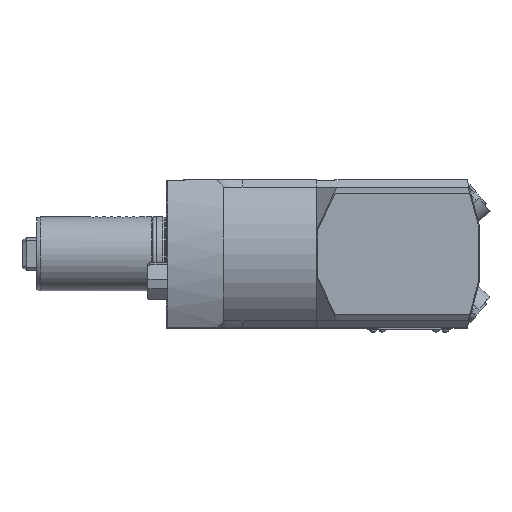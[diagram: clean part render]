
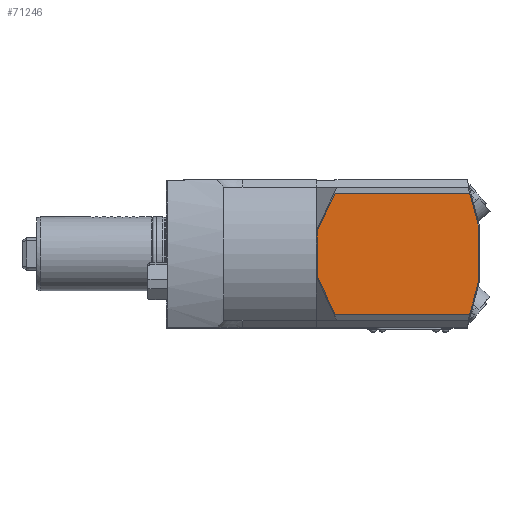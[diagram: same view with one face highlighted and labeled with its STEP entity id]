
A CAD part, top view. The second image highlights one B-rep face of the part: STEP entity #71246.
In plain terms, the highlighted planar face has unit normal (0, 0, 1) as drawn and (-1, 0, 0) by its records, which use the part's own axes.
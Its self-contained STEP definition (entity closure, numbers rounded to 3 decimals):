
#30466=ORIENTED_EDGE('',*,*,#38333,.F.);
#30467=ORIENTED_EDGE('',*,*,#38349,.F.);
#30468=ORIENTED_EDGE('',*,*,#38350,.F.);
#30469=ORIENTED_EDGE('',*,*,#38351,.F.);
#30470=ORIENTED_EDGE('',*,*,#38344,.F.);
#30471=ORIENTED_EDGE('',*,*,#38352,.F.);
#30472=ORIENTED_EDGE('',*,*,#38353,.F.);
#30473=ORIENTED_EDGE('',*,*,#38354,.F.);
#33155=VECTOR('',#45288,1.);
#33166=VECTOR('',#45303,1.);
#33171=VECTOR('',#45310,1.);
#33172=VECTOR('',#45311,1.);
#33173=VECTOR('',#45312,1.);
#33174=VECTOR('',#45313,1.);
#33175=VECTOR('',#45314,1.);
#33176=VECTOR('',#45315,1.);
#34471=LINE('',#64337,#33155);
#34482=LINE('',#64360,#33166);
#34487=LINE('',#64369,#33171);
#34488=LINE('',#64371,#33172);
#34489=LINE('',#64372,#33173);
#34490=LINE('',#64374,#33174);
#34491=LINE('',#64376,#33175);
#34492=LINE('',#64377,#33176);
#36146=VERTEX_POINT('',#64334);
#36147=VERTEX_POINT('',#64336);
#36156=VERTEX_POINT('',#64358);
#36157=VERTEX_POINT('',#64359);
#36160=VERTEX_POINT('',#64368);
#36161=VERTEX_POINT('',#64370);
#36162=VERTEX_POINT('',#64373);
#36163=VERTEX_POINT('',#64375);
#38333=EDGE_CURVE('',#36146,#36147,#34471,.T.);
#38344=EDGE_CURVE('',#36156,#36157,#34482,.T.);
#38349=EDGE_CURVE('',#36160,#36146,#34487,.T.);
#38350=EDGE_CURVE('',#36161,#36160,#34488,.T.);
#38351=EDGE_CURVE('',#36157,#36161,#34489,.T.);
#38352=EDGE_CURVE('',#36162,#36156,#34490,.T.);
#38353=EDGE_CURVE('',#36163,#36162,#34491,.T.);
#38354=EDGE_CURVE('',#36147,#36163,#34492,.T.);
#40049=EDGE_LOOP('',(#30466,#30467,#30468,#30469,#30470,#30471,#30472,#30473));
#41250=FACE_BOUND('',#40049,.T.);
#45288=DIRECTION('',(0.,-72.709,0.));
#45303=DIRECTION('',(0.,72.709,0.));
#45308=DIRECTION('',(-1.,0.,0.));
#45309=DIRECTION('',(0.,1.,0.));
#45310=DIRECTION('',(0.,-9.524,20.425));
#45311=DIRECTION('',(0.,0.,24.599));
#45312=DIRECTION('',(0.,9.524,20.425));
#45313=DIRECTION('',(0.,4.767,-17.79));
#45314=DIRECTION('',(0.,0.,-29.868));
#45315=DIRECTION('',(0.,-4.767,-17.79));
#64334=CARTESIAN_POINT('',(46.381,126.198,32.724));
#64336=CARTESIAN_POINT('',(46.381,53.489,32.724));
#64337=CARTESIAN_POINT('',(46.381,126.198,32.724));
#64358=CARTESIAN_POINT('',(46.381,53.489,-32.724));
#64359=CARTESIAN_POINT('',(46.381,126.198,-32.724));
#64360=CARTESIAN_POINT('',(46.381,53.489,-32.724));
#64367=CARTESIAN_POINT('',(46.381,48.222,0.));
#64368=CARTESIAN_POINT('',(46.381,135.722,12.3));
#64369=CARTESIAN_POINT('',(46.381,135.722,12.3));
#64370=CARTESIAN_POINT('',(46.381,135.722,-12.3));
#64371=CARTESIAN_POINT('',(46.381,135.722,-12.3));
#64372=CARTESIAN_POINT('',(46.381,126.198,-32.724));
#64373=CARTESIAN_POINT('',(46.381,48.722,-14.934));
#64374=CARTESIAN_POINT('',(46.381,48.722,-14.934));
#64375=CARTESIAN_POINT('',(46.381,48.722,14.934));
#64376=CARTESIAN_POINT('',(46.381,48.722,14.934));
#64377=CARTESIAN_POINT('',(46.381,53.489,32.724));
#69399=AXIS2_PLACEMENT_3D('',#64367,#45308,#45309);
#70341=PLANE('',#69399);
#71246=ADVANCED_FACE('',(#41250),#70341,.T.);
